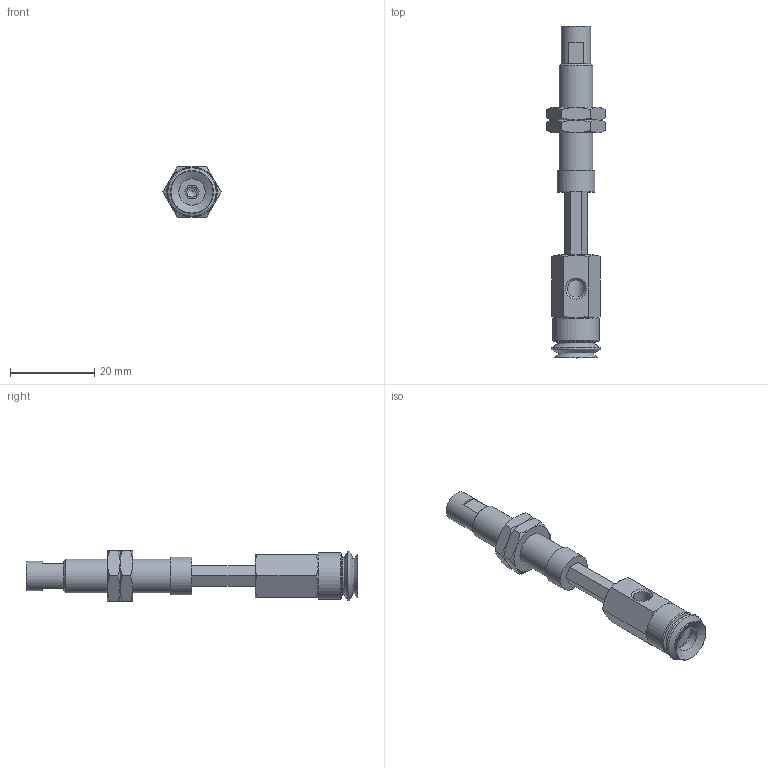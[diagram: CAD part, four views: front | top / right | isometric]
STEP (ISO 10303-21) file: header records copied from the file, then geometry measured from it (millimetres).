
FILE_DESCRIPTION(('STEP AP203'),'1');
FILE_NAME('.stp','2025-04-24T06:34:00',(' '),(' '),'Spatial InterOp 3D',' ',' ');
FILE_SCHEMA(('CONFIG_CONTROL_DESIGN'));
Length unit declared in the file: millimetre
Products named in the file (7): BNABPJYH-10-15-※; Adapter-10-NAPJ; CONNECTOR_H-10-15; NAPJH-10-15-NUT; NAPJTH-10-15-FBODY; NAPJTH-10-15-MBODY; BPJG-10-※
Assembly tree (7 placements, depth 2):
  BNABPJYH-10-15-※
    Adapter-10-NAPJ
    CONNECTOR_H-10-15
    NAPJH-10-15-NUT  x2
    NAPJTH-10-15-FBODY
    NAPJTH-10-15-MBODY
    BPJG-10-※
Bounding box: 13.86 x 79 x 12 mm (x, y, z)
Volume: 4529.6 mm3; surface area: 5088.9 mm2
Topology: 7 solids, 7 shells, 149 faces, 327 edges, 200 vertices
Faces by surface type: plane 70, cone 56, cylinder 16, torus 7
Full cylindrical faces by diameter (mm): 2.5 x1, 4.134 x3, 4.6 x1, 5 x2, 6.266 x1, 7 x1, 7.188 x2, 7.8 x1, 8 x2, 9 x1, 11 x1
Entity records: 3900 total; most frequent: CARTESIAN_POINT 1011, DIRECTION 528, ORIENTED_EDGE 458, EDGE_CURVE 229, AXIS2_PLACEMENT_3D 217, EDGE_LOOP 182, VERTEX_POINT 162, FACE_OUTER_BOUND 148
